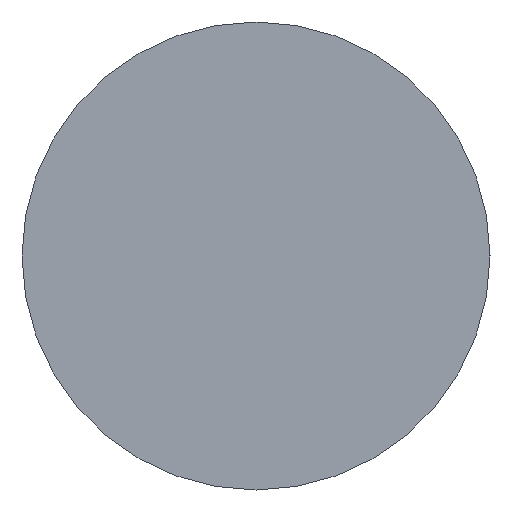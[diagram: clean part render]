
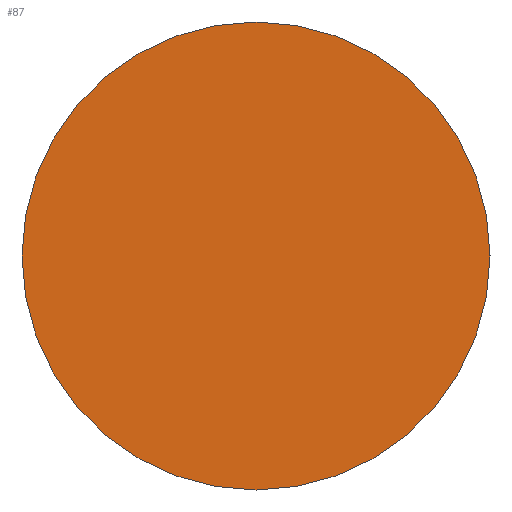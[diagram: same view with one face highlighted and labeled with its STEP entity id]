
A CAD part, left-side view. The second image highlights one B-rep face of the part: STEP entity #87.
In plain terms, the highlighted planar face has unit normal (-1, 0, 0).
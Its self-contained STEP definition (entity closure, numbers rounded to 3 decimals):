
#20 = ORIENTED_EDGE ( 'NONE', *, *, #352, .F. ) ;
#31 = AXIS2_PLACEMENT_3D ( 'NONE', #230, #349, #319 ) ;
#52 = DIRECTION ( 'NONE',  ( 1., 0., 0. ) ) ;
#67 = PLANE ( 'NONE',  #143 ) ;
#69 = FACE_OUTER_BOUND ( 'NONE', #387, .T. ) ;
#72 = CIRCLE ( 'NONE', #501, 1.7 ) ;
#87 = ADVANCED_FACE ( 'NONE', ( #69 ), #67, .T. ) ;
#109 = VERTEX_POINT ( 'NONE', #150 ) ;
#143 = AXIS2_PLACEMENT_3D ( 'NONE', #473, #187, #324 ) ;
#150 = CARTESIAN_POINT ( 'NONE',  ( -1.855, 1.7, 0. ) ) ;
#187 = DIRECTION ( 'NONE',  ( -1., 0., 0. ) ) ;
#228 = CIRCLE ( 'NONE', #31, 1.7 ) ;
#230 = CARTESIAN_POINT ( 'NONE',  ( -1.855, 0., 0. ) ) ;
#249 = EDGE_CURVE ( 'NONE', #109, #309, #72, .T. ) ;
#293 = CARTESIAN_POINT ( 'NONE',  ( -1.855, -1.7, 0. ) ) ;
#309 = VERTEX_POINT ( 'NONE', #293 ) ;
#319 = DIRECTION ( 'NONE',  ( 0., 1., 0. ) ) ;
#324 = DIRECTION ( 'NONE',  ( 0., -1., 0. ) ) ;
#349 = DIRECTION ( 'NONE',  ( 1., 0., 0. ) ) ;
#352 = EDGE_CURVE ( 'NONE', #309, #109, #228, .T. ) ;
#387 = EDGE_LOOP ( 'NONE', ( #423, #20 ) ) ;
#423 = ORIENTED_EDGE ( 'NONE', *, *, #249, .F. ) ;
#451 = CARTESIAN_POINT ( 'NONE',  ( -1.855, 0., 0. ) ) ;
#463 = DIRECTION ( 'NONE',  ( 0., 1., 0. ) ) ;
#473 = CARTESIAN_POINT ( 'NONE',  ( -1.855, 0., 0. ) ) ;
#501 = AXIS2_PLACEMENT_3D ( 'NONE', #451, #52, #463 ) ;
